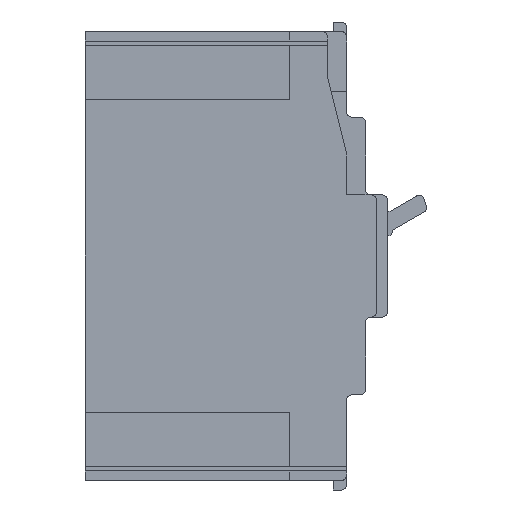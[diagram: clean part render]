
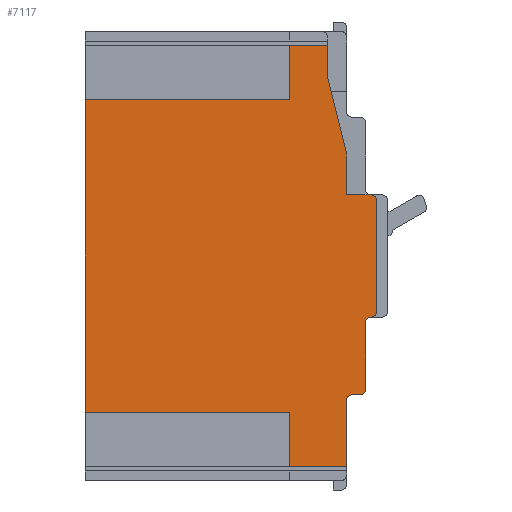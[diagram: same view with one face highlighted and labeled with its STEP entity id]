
A CAD part, left-side view. The second image highlights one B-rep face of the part: STEP entity #7117.
In plain terms, the highlighted planar face has unit normal (-1, 0, 0).
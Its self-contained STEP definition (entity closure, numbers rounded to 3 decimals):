
#44=CARTESIAN_POINT('',(-52.5,-57.,-20.5));
#45=DIRECTION('',(-1.,0.,0.));
#46=DIRECTION('',(0.,0.,-1.));
#47=AXIS2_PLACEMENT_3D('',#44,#45,#46);
#49=DIRECTION('',(0.,0.,-1.));
#50=VECTOR('',#49,24.5);
#51=CARTESIAN_POINT('',(-52.5,-55.,-24.5));
#52=LINE('',#51,#50);
#53=CARTESIAN_POINT('',(-52.5,-53.,-49.));
#54=DIRECTION('',(-1.,0.,0.));
#55=DIRECTION('',(0.,0.,-1.));
#56=AXIS2_PLACEMENT_3D('',#53,#54,#55);
#58=DIRECTION('',(0.,1.,0.));
#59=VECTOR('',#58,3.);
#60=CARTESIAN_POINT('',(-52.5,-53.,-51.));
#61=LINE('',#60,#59);
#62=DIRECTION('',(0.,0.,-1.));
#63=VECTOR('',#62,24.5);
#64=CARTESIAN_POINT('',(-52.5,-48.,-53.));
#65=LINE('',#64,#63);
#66=DIRECTION('',(0.,-1.,0.));
#67=VECTOR('',#66,21.);
#68=CARTESIAN_POINT('',(-52.5,-27.,-77.5));
#69=LINE('',#68,#67);
#70=DIRECTION('',(0.,0.,1.));
#71=VECTOR('',#70,20.);
#72=CARTESIAN_POINT('',(-52.5,-27.,-77.5));
#73=LINE('',#72,#71);
#74=DIRECTION('',(0.,-1.,0.));
#75=VECTOR('',#74,75.);
#76=CARTESIAN_POINT('',(-52.5,48.,-57.5));
#77=LINE('',#76,#75);
#78=DIRECTION('',(0.,0.,1.));
#79=VECTOR('',#78,115.);
#80=CARTESIAN_POINT('',(-52.5,48.,-57.5));
#81=LINE('',#80,#79);
#82=DIRECTION('',(0.,-1.,0.));
#83=VECTOR('',#82,75.);
#84=CARTESIAN_POINT('',(-52.5,48.,57.5));
#85=LINE('',#84,#83);
#86=DIRECTION('',(0.,0.,-1.));
#87=VECTOR('',#86,20.);
#88=CARTESIAN_POINT('',(-52.5,-27.,77.5));
#89=LINE('',#88,#87);
#90=DIRECTION('',(0.,-1.,0.));
#91=VECTOR('',#90,14.);
#92=CARTESIAN_POINT('',(-52.5,-27.,77.5));
#93=LINE('',#92,#91);
#94=DIRECTION('',(0.,0.,-1.));
#95=VECTOR('',#94,12.);
#96=CARTESIAN_POINT('',(-52.5,-41.,77.5));
#97=LINE('',#96,#95);
#98=DIRECTION('',(0.,0.243,0.97));
#99=VECTOR('',#98,28.862);
#100=CARTESIAN_POINT('',(-52.5,-48.,37.5));
#101=LINE('',#100,#99);
#102=DIRECTION('',(0.,0.,1.));
#103=VECTOR('',#102,15.);
#104=CARTESIAN_POINT('',(-52.5,-48.,22.5));
#105=LINE('',#104,#103);
#106=CARTESIAN_POINT('',(-52.5,-57.,20.5));
#107=DIRECTION('',(-1.,0.,0.));
#108=DIRECTION('',(0.,-1.,0.));
#109=AXIS2_PLACEMENT_3D('',#106,#107,#108);
#111=DIRECTION('',(0.,0.,-1.));
#112=VECTOR('',#111,41.);
#113=CARTESIAN_POINT('',(-52.5,-59.,20.5));
#114=LINE('',#113,#112);
#2234=DIRECTION('',(0.,1.,0.));
#2235=VECTOR('',#2234,9.);
#2236=CARTESIAN_POINT('',(-52.5,-57.,22.5));
#2237=LINE('',#2236,#2235);
#4437=CARTESIAN_POINT('',(-52.5,-57.,-24.5));
#4438=DIRECTION('',(1.,0.,0.));
#4439=DIRECTION('',(0.,1.,0.));
#4440=AXIS2_PLACEMENT_3D('',#4437,#4438,#4439);
#4690=CARTESIAN_POINT('',(-52.5,-50.,-53.));
#4691=DIRECTION('',(1.,0.,0.));
#4692=DIRECTION('',(0.,1.,0.));
#4693=AXIS2_PLACEMENT_3D('',#4690,#4691,#4692);
#6148=CARTESIAN_POINT('',(-52.5,-48.,-77.5));
#6149=VERTEX_POINT('',#6148);
#6474=CARTESIAN_POINT('',(-52.5,-48.,22.5));
#6475=VERTEX_POINT('',#6474);
#6476=CARTESIAN_POINT('',(-52.5,-48.,37.5));
#6477=VERTEX_POINT('',#6476);
#6478=CARTESIAN_POINT('',(-52.5,-41.,65.5));
#6480=VERTEX_POINT('',#6478);
#6482=CARTESIAN_POINT('',(-52.5,-41.,77.5));
#6483=VERTEX_POINT('',#6482);
#6698=CARTESIAN_POINT('',(-52.5,-27.,-57.5));
#6699=VERTEX_POINT('',#6698);
#6700=CARTESIAN_POINT('',(-52.5,-27.,57.5));
#6701=VERTEX_POINT('',#6700);
#6702=CARTESIAN_POINT('',(-52.5,48.,-57.5));
#6703=VERTEX_POINT('',#6702);
#6708=CARTESIAN_POINT('',(-52.5,-27.,-77.5));
#6709=VERTEX_POINT('',#6708);
#6714=CARTESIAN_POINT('',(-52.5,-27.,77.5));
#6715=VERTEX_POINT('',#6714);
#6716=CARTESIAN_POINT('',(-52.5,48.,57.5));
#6717=VERTEX_POINT('',#6716);
#6846=CARTESIAN_POINT('',(-52.5,-55.,-24.5));
#6848=VERTEX_POINT('',#6846);
#6962=CARTESIAN_POINT('',(-52.5,-48.,-53.));
#6964=VERTEX_POINT('',#6962);
#6966=CARTESIAN_POINT('',(-52.5,-50.,-51.));
#6968=VERTEX_POINT('',#6966);
#6978=CARTESIAN_POINT('',(-52.5,-57.,-22.5));
#6979=CARTESIAN_POINT('',(-52.5,-59.,-20.5));
#6980=VERTEX_POINT('',#6978);
#6981=VERTEX_POINT('',#6979);
#6994=CARTESIAN_POINT('',(-52.5,-59.,20.5));
#6996=VERTEX_POINT('',#6994);
#6998=CARTESIAN_POINT('',(-52.5,-57.,22.5));
#6999=VERTEX_POINT('',#6998);
#7022=CARTESIAN_POINT('',(-52.5,-53.,-51.));
#7023=CARTESIAN_POINT('',(-52.5,-55.,-49.));
#7024=VERTEX_POINT('',#7022);
#7025=VERTEX_POINT('',#7023);
#7070=CARTESIAN_POINT('',(-52.5,0.,0.));
#7071=DIRECTION('',(1.,0.,0.));
#7072=DIRECTION('',(0.,-1.,0.));
#7073=AXIS2_PLACEMENT_3D('',#7070,#7071,#7072);
#7074=PLANE('',#7073);
#7076=ORIENTED_EDGE('',*,*,#7075,.F.);
#7078=ORIENTED_EDGE('',*,*,#7077,.F.);
#7080=ORIENTED_EDGE('',*,*,#7079,.T.);
#7082=ORIENTED_EDGE('',*,*,#7081,.F.);
#7084=ORIENTED_EDGE('',*,*,#7083,.T.);
#7086=ORIENTED_EDGE('',*,*,#7085,.F.);
#7088=ORIENTED_EDGE('',*,*,#7087,.T.);
#7090=ORIENTED_EDGE('',*,*,#7089,.F.);
#7092=ORIENTED_EDGE('',*,*,#7091,.T.);
#7094=ORIENTED_EDGE('',*,*,#7093,.F.);
#7096=ORIENTED_EDGE('',*,*,#7095,.T.);
#7098=ORIENTED_EDGE('',*,*,#7097,.T.);
#7100=ORIENTED_EDGE('',*,*,#7099,.F.);
#7102=ORIENTED_EDGE('',*,*,#7101,.T.);
#7104=ORIENTED_EDGE('',*,*,#7103,.T.);
#7106=ORIENTED_EDGE('',*,*,#7105,.F.);
#7108=ORIENTED_EDGE('',*,*,#7107,.F.);
#7110=ORIENTED_EDGE('',*,*,#7109,.F.);
#7112=ORIENTED_EDGE('',*,*,#7111,.F.);
#7114=ORIENTED_EDGE('',*,*,#7113,.T.);
#7115=EDGE_LOOP('',(#7076,#7078,#7080,#7082,#7084,#7086,#7088,#7090,#7092,#7094,
#7096,#7098,#7100,#7102,#7104,#7106,#7108,#7110,#7112,#7114));
#7116=FACE_OUTER_BOUND('',#7115,.F.);
#48=CIRCLE('',#47,2.);
#57=CIRCLE('',#56,2.);
#110=CIRCLE('',#109,2.);
#4441=CIRCLE('',#4440,2.);
#4694=CIRCLE('',#4693,2.);
#7075=EDGE_CURVE('',#6980,#6981,#48,.T.);
#7077=EDGE_CURVE('',#6848,#6980,#4441,.T.);
#7079=EDGE_CURVE('',#6848,#7025,#52,.T.);
#7081=EDGE_CURVE('',#7024,#7025,#57,.T.);
#7083=EDGE_CURVE('',#7024,#6968,#61,.T.);
#7085=EDGE_CURVE('',#6964,#6968,#4694,.T.);
#7087=EDGE_CURVE('',#6964,#6149,#65,.T.);
#7089=EDGE_CURVE('',#6709,#6149,#69,.T.);
#7091=EDGE_CURVE('',#6709,#6699,#73,.T.);
#7093=EDGE_CURVE('',#6703,#6699,#77,.T.);
#7095=EDGE_CURVE('',#6703,#6717,#81,.T.);
#7097=EDGE_CURVE('',#6717,#6701,#85,.T.);
#7099=EDGE_CURVE('',#6715,#6701,#89,.T.);
#7101=EDGE_CURVE('',#6715,#6483,#93,.T.);
#7103=EDGE_CURVE('',#6483,#6480,#97,.T.);
#7105=EDGE_CURVE('',#6477,#6480,#101,.T.);
#7107=EDGE_CURVE('',#6475,#6477,#105,.T.);
#7109=EDGE_CURVE('',#6999,#6475,#2237,.T.);
#7111=EDGE_CURVE('',#6996,#6999,#110,.T.);
#7113=EDGE_CURVE('',#6996,#6981,#114,.T.);
#7117=ADVANCED_FACE('',(#7116),#7074,.F.);
